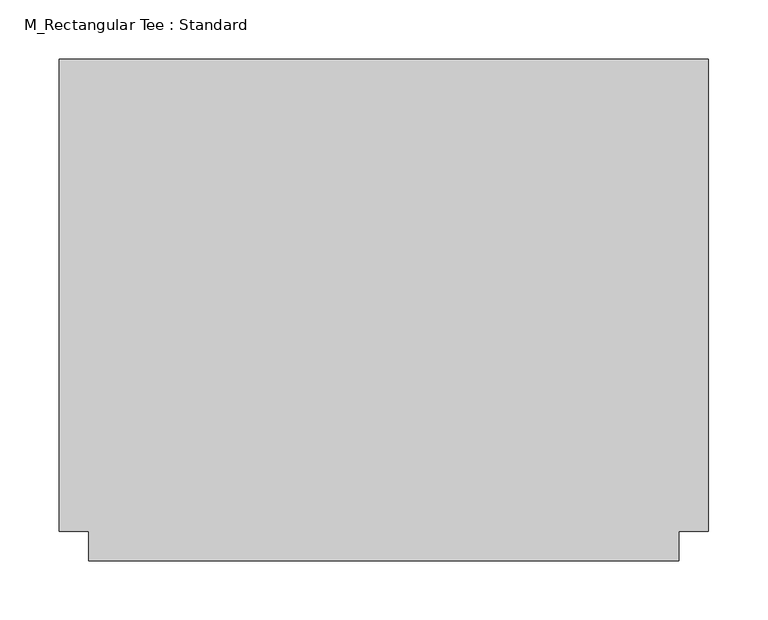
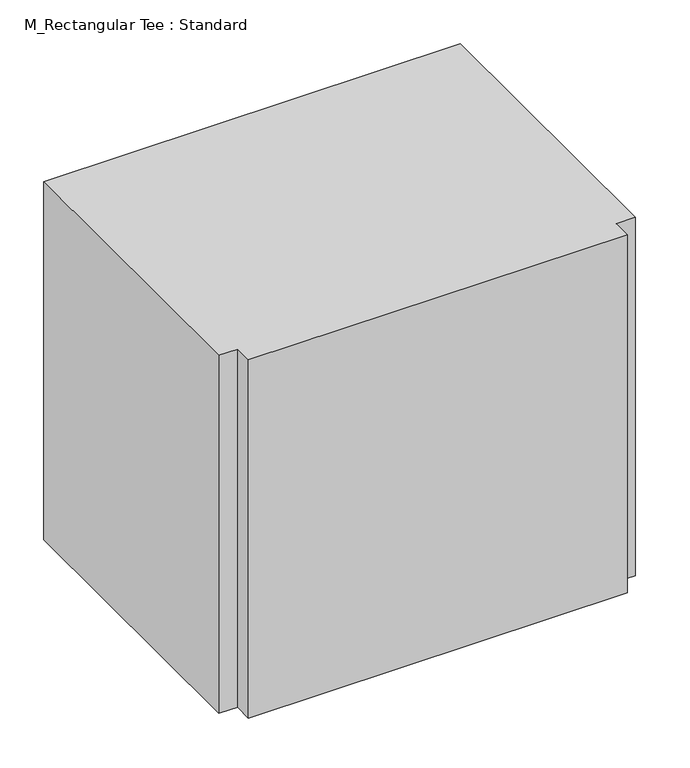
"""IFC4 building model written with IfcOpenShell, lengths in millimetres: duct fitting geometry, M_Rectangular Tee : Standard."""

from ifc_helpers import new_model, si_unit, frame, origin, place, context, project, spatial, polyline, outline, extrude, source, transform, mapped, element, save


def m_rectangular_tee_standard_384d0ccf(model_context):
    return source(origin(), model_context, "Body", "SweptSolid", [
        extrude(outline(polyline([(-275.0, -200.0), (-275.0, 200.0), (275.0, 200.0), (275.0, -200.0), (250.0, -200.0), (250.0, -225.0), (-250.0, -225.0), (-250.0, -200.0), (-275.0, -200.0)])), frame((0.0, 0.0, -250.0), z_axis=(0.0, 0.0, 1.0), x_axis=(1.0, 0.0, 0.0)), (0.0, 0.0, 1.0), 500.0),
        extrude(outline(polyline([(-275.0, 200.0), (275.0, 200.0), (275.0, -200.0), (250.0, -200.0), (250.0, -225.0), (-250.0, -225.0), (-250.0, -200.0), (-275.0, -200.0), (-275.0, 200.0)])), frame((0.0, 0.0, -250.0), z_axis=(0.0, 0.0, 1.0), x_axis=(1.0, 0.0, 0.0)), (0.0, 0.0, 1.0), 500.0),
        extrude(outline(polyline([(-275.0, -200.0), (-275.0, 200.0), (275.0, 200.0), (275.0, -200.0), (250.0, -200.0), (250.0, -225.0), (-250.0, -225.0), (-250.0, -200.0), (-275.0, -200.0)])), frame((0.0, 0.0, -250.0), z_axis=(0.0, 0.0, 1.0), x_axis=(1.0, 0.0, 0.0)), (0.0, 0.0, 1.0), 500.0),
    ])


if __name__ == "__main__":
    model = new_model("IFC4")
    model_context = context("Model", 3, world=origin())
    ifc_project = project(units=[si_unit("LENGTHUNIT", "METRE", prefix="MILLI")], contexts=[model_context])
    site = spatial("IfcSite", under=ifc_project)
    building = spatial("IfcBuilding", under=site)
    placement = place(None, origin())
    m_rectangular_tee_standard_shape = m_rectangular_tee_standard_384d0ccf(model_context)
    element("IfcDuctFitting", 1, ObjectType="M_Rectangular Tee : Standard", at=placement, inside=building, context=model_context, shape_type="MappedRepresentation", body=[
        mapped(m_rectangular_tee_standard_shape, transform((0.0, 0.0, 0.0), x_axis=(1.0, 0.0, 0.0), y_axis=(0.0, 1.0, 0.0), z_axis=(0.0, 0.0, 1.0))),
    ])
    save(model, "model.ifc")
